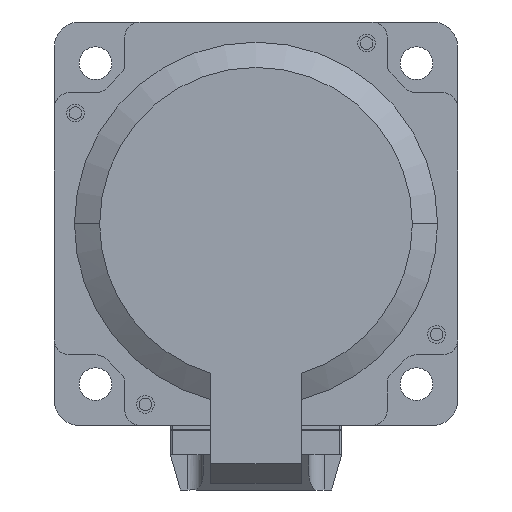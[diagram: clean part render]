
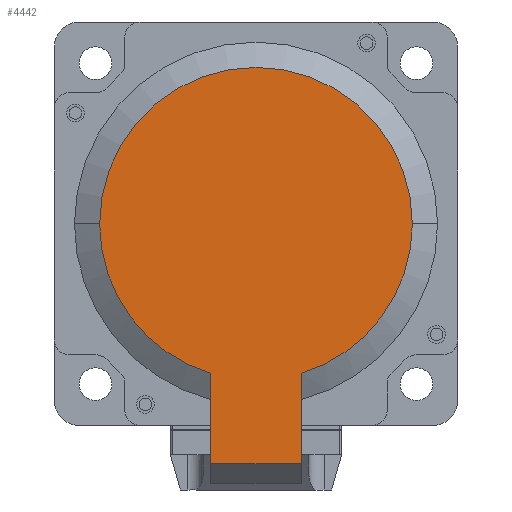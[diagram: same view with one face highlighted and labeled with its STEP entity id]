
A CAD part, left-side view. The second image highlights one B-rep face of the part: STEP entity #4442.
In plain terms, the highlighted planar face has unit normal (-1, 0, 0).
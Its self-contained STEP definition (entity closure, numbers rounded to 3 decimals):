
#2381 = DIRECTION ( 'NONE',  ( 0., 0., -1. ) ) ;
#2479 = DIRECTION ( 'NONE',  ( -1., 0., 0. ) ) ;
#3064 = VERTEX_POINT ( 'NONE', #19112 ) ;
#4442 = ADVANCED_FACE ( 'NONE', ( #5949 ), #34370, .T. ) ;
#5949 = FACE_OUTER_BOUND ( 'NONE', #34648, .T. ) ;
#8090 = DIRECTION ( 'NONE',  ( 0., -1., 0. ) ) ;
#9499 = EDGE_CURVE ( 'NONE', #55473, #31811, #54469, .T. ) ;
#17109 = VERTEX_POINT ( 'NONE', #71435 ) ;
#17606 = EDGE_CURVE ( 'NONE', #31811, #55777, #66560, .T. ) ;
#17796 = VECTOR ( 'NONE', #24488, 1000. ) ;
#19112 = CARTESIAN_POINT ( 'NONE',  ( -185., 9., -29.665 ) ) ;
#19850 = CARTESIAN_POINT ( 'NONE',  ( -185., 0., 0. ) ) ;
#20940 = AXIS2_PLACEMENT_3D ( 'NONE', #19850, #70617, #58731 ) ;
#24488 = DIRECTION ( 'NONE',  ( 0., 0., -1. ) ) ;
#25636 = ORIENTED_EDGE ( 'NONE', *, *, #70757, .F. ) ;
#25750 = CARTESIAN_POINT ( 'NONE',  ( -185., 9., -47.549 ) ) ;
#27806 = ORIENTED_EDGE ( 'NONE', *, *, #17606, .T. ) ;
#28005 = ORIENTED_EDGE ( 'NONE', *, *, #68421, .F. ) ;
#29574 = CARTESIAN_POINT ( 'NONE',  ( -185., -31., 0. ) ) ;
#30247 = CARTESIAN_POINT ( 'NONE',  ( -185., 0., 0. ) ) ;
#31811 = VERTEX_POINT ( 'NONE', #29574 ) ;
#33556 = VECTOR ( 'NONE', #2381, 1000. ) ;
#34370 = PLANE ( 'NONE',  #50906 ) ;
#34648 = EDGE_LOOP ( 'NONE', ( #28005, #65872, #27806, #50979, #71338, #25636 ) ) ;
#37026 = EDGE_CURVE ( 'NONE', #3064, #65873, #54373, .T. ) ;
#41506 = DIRECTION ( 'NONE',  ( 0., 1., 0. ) ) ;
#43187 = CARTESIAN_POINT ( 'NONE',  ( -185., -9., -29.665 ) ) ;
#44359 = CARTESIAN_POINT ( 'NONE',  ( -185., 9., -47.549 ) ) ;
#46158 = LINE ( 'NONE', #47319, #55685 ) ;
#47319 = CARTESIAN_POINT ( 'NONE',  ( -185., -9., -47.549 ) ) ;
#50906 = AXIS2_PLACEMENT_3D ( 'NONE', #56946, #62552, #52037 ) ;
#50979 = ORIENTED_EDGE ( 'NONE', *, *, #61369, .T. ) ;
#51652 = AXIS2_PLACEMENT_3D ( 'NONE', #30247, #2479, #8090 ) ;
#52037 = DIRECTION ( 'NONE',  ( 0., -1., 0. ) ) ;
#53039 = AXIS2_PLACEMENT_3D ( 'NONE', #66886, #66425, #55947 ) ;
#54373 = LINE ( 'NONE', #25750, #33556 ) ;
#54469 = CIRCLE ( 'NONE', #51652, 31. ) ;
#55473 = VERTEX_POINT ( 'NONE', #43187 ) ;
#55685 = VECTOR ( 'NONE', #41506, 1000. ) ;
#55777 = VERTEX_POINT ( 'NONE', #68412 ) ;
#55947 = DIRECTION ( 'NONE',  ( 0., -1., 0. ) ) ;
#56946 = CARTESIAN_POINT ( 'NONE',  ( -185., -31., 0. ) ) ;
#57751 = CARTESIAN_POINT ( 'NONE',  ( -185., -9., -47.549 ) ) ;
#57782 = LINE ( 'NONE', #57751, #17796 ) ;
#58731 = DIRECTION ( 'NONE',  ( 0., -1., 0. ) ) ;
#61369 = EDGE_CURVE ( 'NONE', #55777, #3064, #67866, .T. ) ;
#62552 = DIRECTION ( 'NONE',  ( -1., 0., 0. ) ) ;
#65872 = ORIENTED_EDGE ( 'NONE', *, *, #9499, .T. ) ;
#65873 = VERTEX_POINT ( 'NONE', #44359 ) ;
#66425 = DIRECTION ( 'NONE',  ( -1., 0., 0. ) ) ;
#66560 = CIRCLE ( 'NONE', #20940, 31. ) ;
#66886 = CARTESIAN_POINT ( 'NONE',  ( -185., 0., 0. ) ) ;
#67866 = CIRCLE ( 'NONE', #53039, 31. ) ;
#68412 = CARTESIAN_POINT ( 'NONE',  ( -185., 31., 0. ) ) ;
#68421 = EDGE_CURVE ( 'NONE', #55473, #17109, #57782, .T. ) ;
#70617 = DIRECTION ( 'NONE',  ( -1., 0., 0. ) ) ;
#70757 = EDGE_CURVE ( 'NONE', #17109, #65873, #46158, .T. ) ;
#71338 = ORIENTED_EDGE ( 'NONE', *, *, #37026, .T. ) ;
#71435 = CARTESIAN_POINT ( 'NONE',  ( -185., -9., -47.549 ) ) ;
